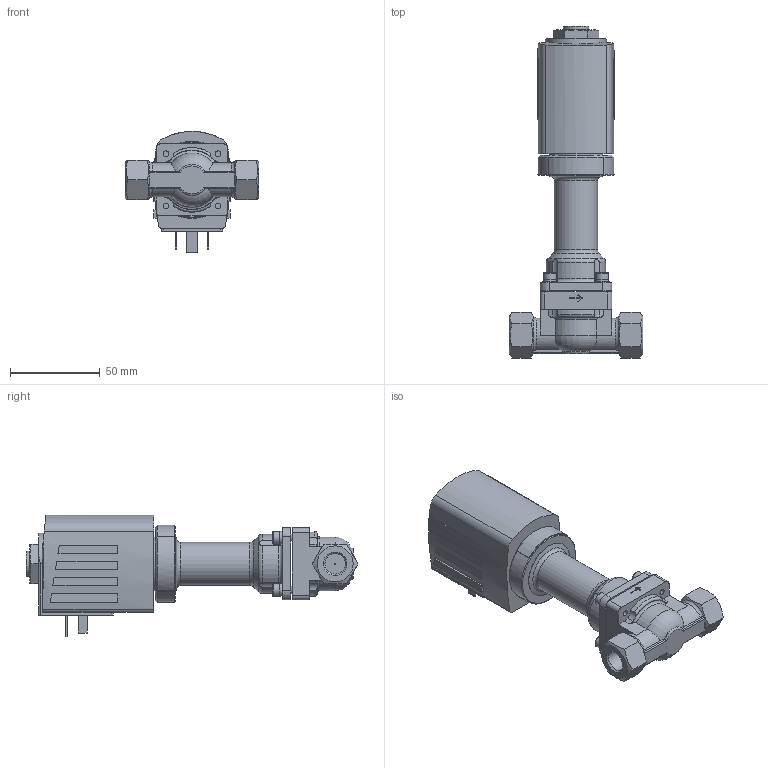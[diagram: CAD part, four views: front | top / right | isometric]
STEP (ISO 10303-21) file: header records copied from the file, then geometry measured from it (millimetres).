
FILE_DESCRIPTION(/* description */ ('STEP AP214'),/* implementation_level */ '2;1');
FILE_NAME(/* name */ '6026-352579-pluger_valve_2_2_Wege_direct-acting',/* time_stamp */ '2024-03-04T15:33:41+01:00',/* author */ ('License CC BY-ND 4.0'),/* organization */ ('CADENAS'),/* preprocessor_version */ 'ST-DEVELOPER v19.3',/* originating_system */ 'PARTsolutions',/* authorisation */ ' ');
FILE_SCHEMA (('AUTOMOTIVE_DESIGN {1 0 10303 214 3 1 1}'));
Length unit declared in the file: millimetre
Products named in the file (4): 6026-352579-pluger valve 2/2 Wege direct-acting; 6026ms centerpiece 0; 6026g-G 1/4VA-pluger valve_body; AC10ex-42SG=k-Plan-Coil
Assembly tree (3 placements, depth 2):
  6026-352579-pluger valve 2/2 Wege direct-acting
    6026ms centerpiece 0
    6026g-G 1/4VA-pluger valve_body
    AC10ex-42SG=k-Plan-Coil
Bounding box: 74.5 x 184.73 x 67.5 mm (x, y, z)
Volume: 242765.4 mm3; surface area: 40549 mm2
Topology: 3 solids, 3 shells, 288 faces, 714 edges, 468 vertices
Faces by surface type: plane 156, cylinder 81, torus 27, cone 24
Full cylindrical faces by diameter (mm): 0.4 x1, 2.013 x1, 3.242 x4, 4 x4, 7 x4, 7.1 x4, 7.8 x4, 11.445 x2, 14 x1, 24 x1, 30.3 x1, 32 x1, 42.3 x1
Entity records: 9795 total; most frequent: CARTESIAN_POINT 1866, DIRECTION 1350, ORIENTED_EDGE 1304, EDGE_CURVE 652, AXIS2_PLACEMENT_3D 516, VERTEX_POINT 456, EDGE_LOOP 384, FACE_BOUND 384
